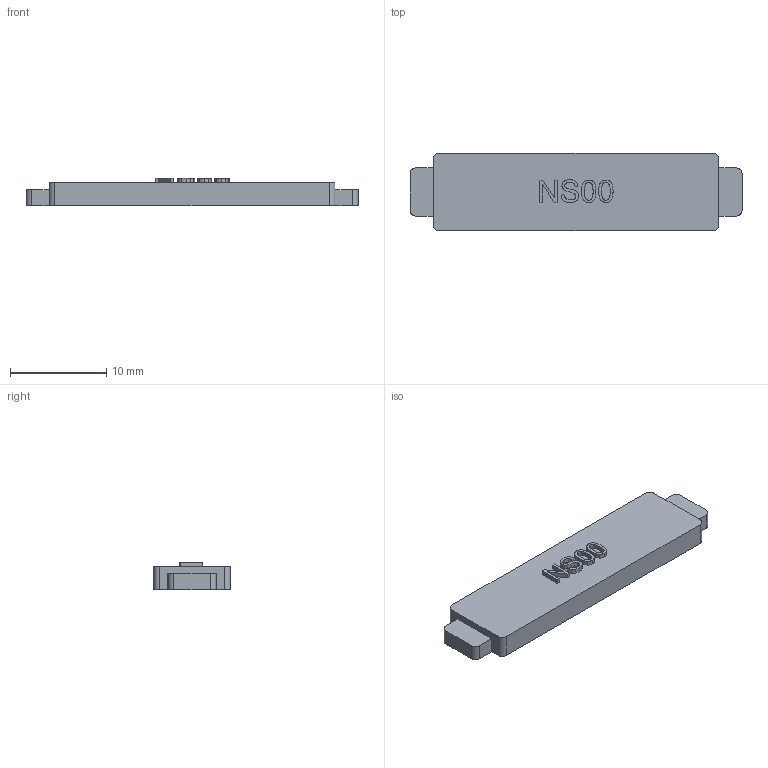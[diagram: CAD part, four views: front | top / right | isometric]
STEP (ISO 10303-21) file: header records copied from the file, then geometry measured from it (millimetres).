
FILE_DESCRIPTION(('Open CASCADE Model'),'2;1');
FILE_NAME('Open CASCADE Shape Model','1970-01-01T00:00:00',('Author'),( 'Open CASCADE'),'Open CASCADE STEP processor 7.8','Open CASCADE 7.8' ,'Unknown');
FILE_SCHEMA(('AUTOMOTIVE_DESIGN { 1 0 10303 214 1 1 1 1 }'));
Length unit declared in the file: millimetre
Products named in the file (2): Open CASCADE STEP translator 7.8 32; NS00K neck keeper bar
Assembly tree (1 placements, depth 2):
  Open CASCADE STEP translator 7.8 32
    NS00K neck keeper bar
Bounding box: 34.5 x 8 x 2.88 mm (x, y, z)
Volume: 612.5 mm3; surface area: 738 mm2
Topology: 1 solids, 1 shells, 113 faces, 315 edges, 210 vertices
Faces by surface type: extrusion 73, plane 32, cylinder 8
Entity records: 8995 total; most frequent: CARTESIAN_POINT 3382, DIRECTION 713, ORIENTED_EDGE 630, PCURVE 630, DEFINITIONAL_REPRESENTATION 630, VECTOR 585, LINE 512, B_SPLINE_CURVE_WITH_KNOTS 474
